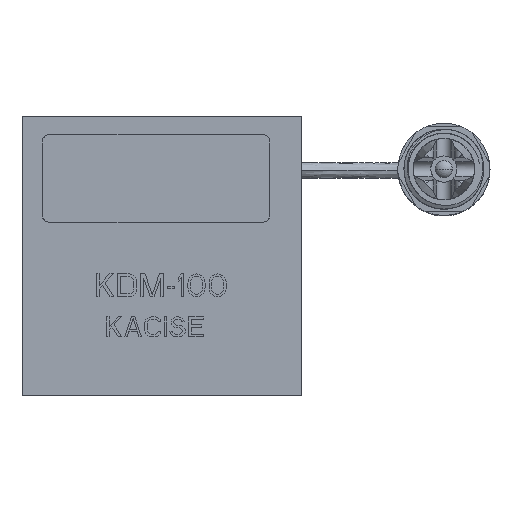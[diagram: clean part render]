
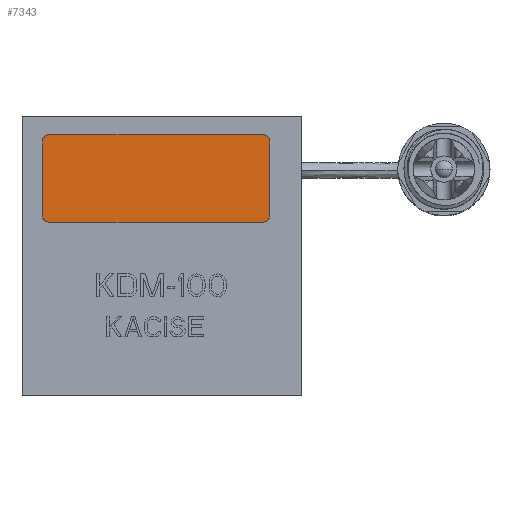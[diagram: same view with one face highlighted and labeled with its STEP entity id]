
A CAD part, top view. The second image highlights one B-rep face of the part: STEP entity #7343.
In plain terms, the highlighted planar face has unit normal (0, 0, 1).
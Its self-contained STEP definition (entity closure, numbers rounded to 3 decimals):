
#1265=CARTESIAN_POINT('',(-36.801,37.42,2.));
#1266=DIRECTION('',(0.,0.,1.));
#1267=DIRECTION('',(0.,1.,0.));
#1268=AXIS2_PLACEMENT_3D('',#1265,#1266,#1267);
#1270=DIRECTION('',(-1.,0.,0.));
#1271=VECTOR('',#1270,69.904);
#1272=CARTESIAN_POINT('',(33.103,39.42,2.));
#1273=LINE('',#1272,#1271);
#1274=CARTESIAN_POINT('',(33.103,37.42,2.));
#1275=DIRECTION('',(0.,0.,1.));
#1276=DIRECTION('',(1.,0.,0.));
#1277=AXIS2_PLACEMENT_3D('',#1274,#1275,#1276);
#1279=DIRECTION('',(0.,1.,0.));
#1280=VECTOR('',#1279,24.385);
#1281=CARTESIAN_POINT('',(35.103,13.035,2.));
#1282=LINE('',#1281,#1280);
#1283=CARTESIAN_POINT('',(33.103,13.035,2.));
#1284=DIRECTION('',(0.,0.,1.));
#1285=DIRECTION('',(0.,-1.,0.));
#1286=AXIS2_PLACEMENT_3D('',#1283,#1284,#1285);
#1288=DIRECTION('',(1.,0.,0.));
#1289=VECTOR('',#1288,69.904);
#1290=CARTESIAN_POINT('',(-36.801,11.035,2.));
#1291=LINE('',#1290,#1289);
#1292=CARTESIAN_POINT('',(-36.801,13.035,2.));
#1293=DIRECTION('',(0.,0.,1.));
#1294=DIRECTION('',(-1.,0.,0.));
#1295=AXIS2_PLACEMENT_3D('',#1292,#1293,#1294);
#1297=DIRECTION('',(0.,-1.,0.));
#1298=VECTOR('',#1297,24.385);
#1299=CARTESIAN_POINT('',(-38.801,37.42,2.));
#1300=LINE('',#1299,#1298);
#4988=CARTESIAN_POINT('',(-36.801,39.42,2.));
#4989=CARTESIAN_POINT('',(-38.801,37.42,2.));
#4990=VERTEX_POINT('',#4988);
#4991=VERTEX_POINT('',#4989);
#4992=CARTESIAN_POINT('',(-38.801,13.035,2.));
#4993=VERTEX_POINT('',#4992);
#4994=CARTESIAN_POINT('',(-36.801,11.035,2.));
#4995=VERTEX_POINT('',#4994);
#4996=CARTESIAN_POINT('',(33.103,11.035,2.));
#4997=VERTEX_POINT('',#4996);
#4998=CARTESIAN_POINT('',(35.103,13.035,2.));
#4999=VERTEX_POINT('',#4998);
#5000=CARTESIAN_POINT('',(35.103,37.42,2.));
#5001=VERTEX_POINT('',#5000);
#5002=CARTESIAN_POINT('',(33.103,39.42,2.));
#5003=VERTEX_POINT('',#5002);
#7328=CARTESIAN_POINT('',(0.,0.,2.));
#7329=DIRECTION('',(0.,0.,1.));
#7330=DIRECTION('',(1.,0.,0.));
#7331=AXIS2_PLACEMENT_3D('',#7328,#7329,#7330);
#7332=PLANE('',#7331);
#7333=ORIENTED_EDGE('',*,*,#7224,.F.);
#7334=ORIENTED_EDGE('',*,*,#7239,.F.);
#7335=ORIENTED_EDGE('',*,*,#7253,.F.);
#7336=ORIENTED_EDGE('',*,*,#7267,.F.);
#7337=ORIENTED_EDGE('',*,*,#7281,.F.);
#7338=ORIENTED_EDGE('',*,*,#7295,.F.);
#7339=ORIENTED_EDGE('',*,*,#7309,.F.);
#7340=ORIENTED_EDGE('',*,*,#7322,.F.);
#7341=EDGE_LOOP('',(#7333,#7334,#7335,#7336,#7337,#7338,#7339,#7340));
#7342=FACE_OUTER_BOUND('',#7341,.F.);
#7343=ADVANCED_FACE('',(#7342),#7332,.T.);
#1269=CIRCLE('',#1268,2.);
#1278=CIRCLE('',#1277,2.);
#1287=CIRCLE('',#1286,2.);
#1296=CIRCLE('',#1295,2.);
#7224=EDGE_CURVE('',#4990,#4991,#1269,.T.);
#7239=EDGE_CURVE('',#5003,#4990,#1273,.T.);
#7253=EDGE_CURVE('',#5001,#5003,#1278,.T.);
#7267=EDGE_CURVE('',#4999,#5001,#1282,.T.);
#7281=EDGE_CURVE('',#4997,#4999,#1287,.T.);
#7295=EDGE_CURVE('',#4995,#4997,#1291,.T.);
#7309=EDGE_CURVE('',#4993,#4995,#1296,.T.);
#7322=EDGE_CURVE('',#4991,#4993,#1300,.T.);
